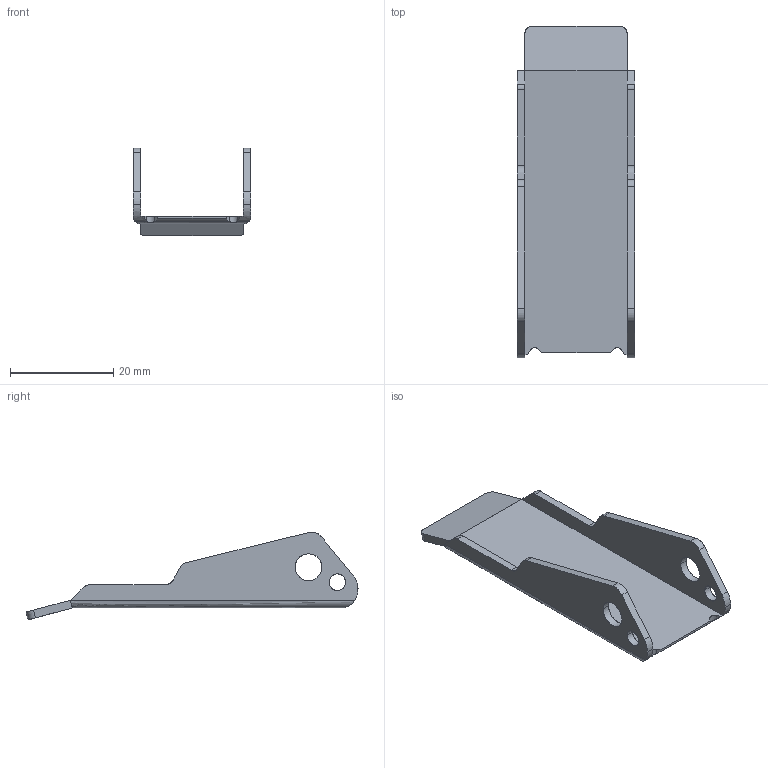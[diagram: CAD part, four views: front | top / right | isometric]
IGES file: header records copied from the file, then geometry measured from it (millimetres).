
Start section: SolidWorks IGES FILE using analytic representation for surfaces
Global section: file name: C:\Documents and Settings\brechard\Bureau\GE 67\63.010.00.IGS; native system: SolidWorks 2001Plus by SolidWorks Corporation; preprocessor: Version 5.3; author: brechard; date: 050126.103556; units: millimetre
Bounding box: 22.8 x 64.4 x 17 mm (x, y, z)
Surface area: 4624.3 mm2 (no closed solid volume)
Topology: 0 solids, 0 shells, 116 faces, 1232 edges, 1232 vertices
Faces by surface type: revolution 60, bspline 56
